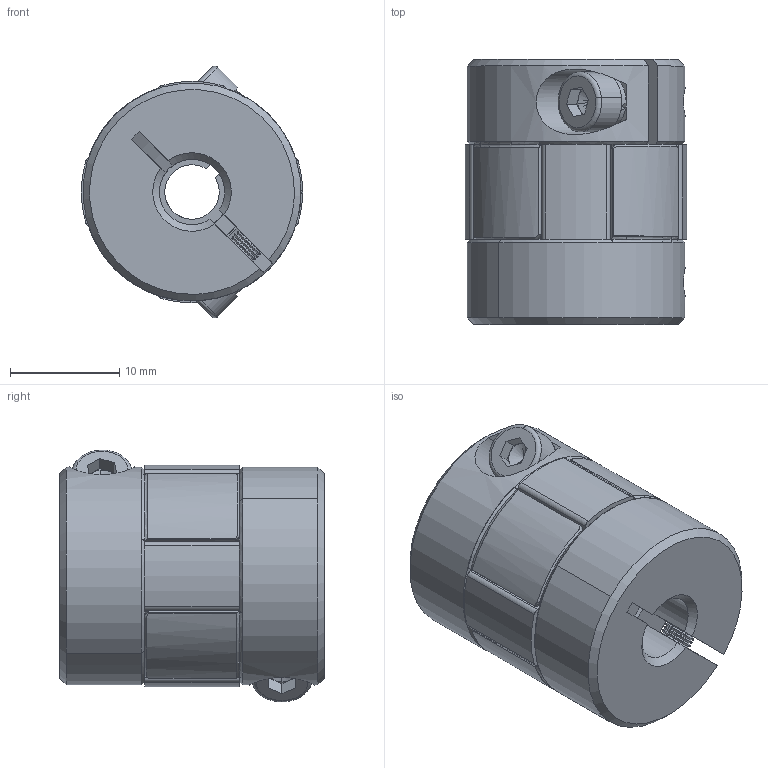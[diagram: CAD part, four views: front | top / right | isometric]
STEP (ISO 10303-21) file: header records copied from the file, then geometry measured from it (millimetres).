
FILE_DESCRIPTION (( 'STEP AP203' ), '1' );
FILE_NAME ('LF-B-D20L25-5-6.STEP', '2021-10-20T01:20:11', ( '' ), ( '' ), 'SwSTEP 2.0', 'SolidWorks 2018', '' );
FILE_SCHEMA (( 'CONFIG_CONTROL_DESIGN' ));
Length unit declared in the file: millimetre
Products named in the file (1): LF-B-D20L25-5-6
Bounding box: 20.31 x 24.3 x 23.09 mm (x, y, z)
Volume: 6656.1 mm3; surface area: 3577.8 mm2
Topology: 1 solids, 1 shells, 431 faces, 1076 edges, 637 vertices
Faces by surface type: cylinder 167, cone 158, plane 94, torus 12
Entity records: 13178 total; most frequent: CARTESIAN_POINT 2731, DIRECTION 2331, ORIENTED_EDGE 2144, EDGE_CURVE 1072, AXIS2_PLACEMENT_3D 959, VERTEX_POINT 637, CIRCLE 527, EDGE_LOOP 447
